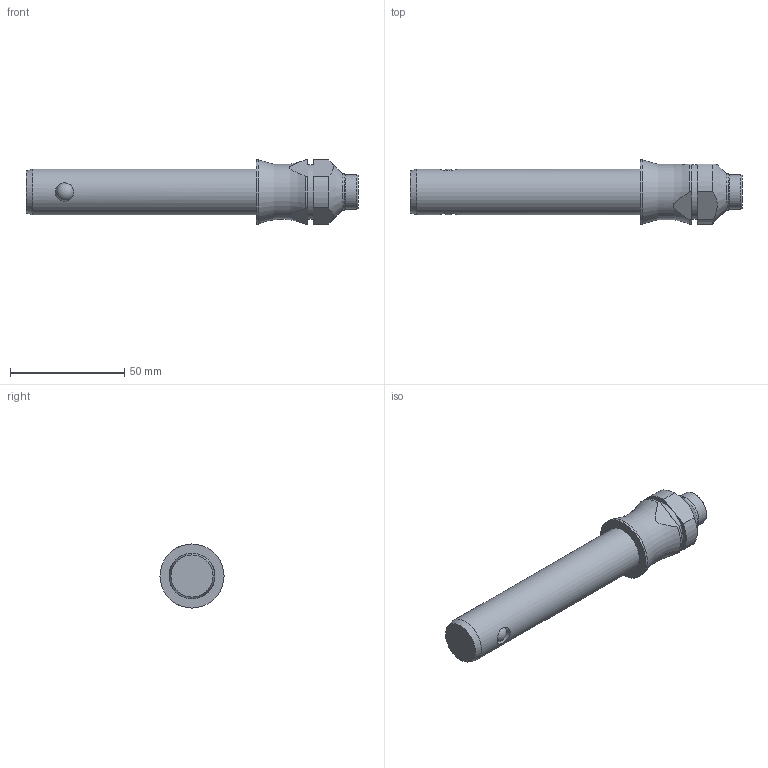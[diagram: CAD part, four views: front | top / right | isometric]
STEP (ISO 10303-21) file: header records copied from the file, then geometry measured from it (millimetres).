
FILE_DESCRIPTION( ( 'STEP AP203' ), '1' );
FILE_NAME( 'C:/Temp/Ganter_Step_05_03_2020/data/3_1/gn113_3/Stainless Steel-Ball lock pin GN 113.3-20-80 (activated).stp', '2020-03-12T08:19:04', ( 'License CC BY-ND 4.0' ), ( 'CADENAS' ), ' ', 'PARTsolutions', ' ' );
FILE_SCHEMA( ( 'CONFIG_CONTROL_DESIGN' ) );
Length unit declared in the file: millimetre
Products named in the file (1): _Stainless Steel-Ball lock pin GN 113.3-20-80 (activated)
Bounding box: 145.05 x 28 x 28 mm (x, y, z)
Volume: 51138.5 mm3; surface area: 11044.8 mm2
Topology: 1 solids, 1 shells, 31 faces, 74 edges, 46 vertices
Faces by surface type: cylinder 13, plane 11, cone 4, sphere 2, torus 1
Full cylindrical faces by diameter (mm): 8 x2, 15 x1, 16 x1, 20 x1, 24 x1, 28 x1
Entity records: 1054 total; most frequent: CARTESIAN_POINT 390, DIRECTION 134, ORIENTED_EDGE 104, AXIS2_PLACEMENT_3D 58, EDGE_CURVE 52, EDGE_LOOP 48, VERTEX_POINT 40, FACE_OUTER_BOUND 39
